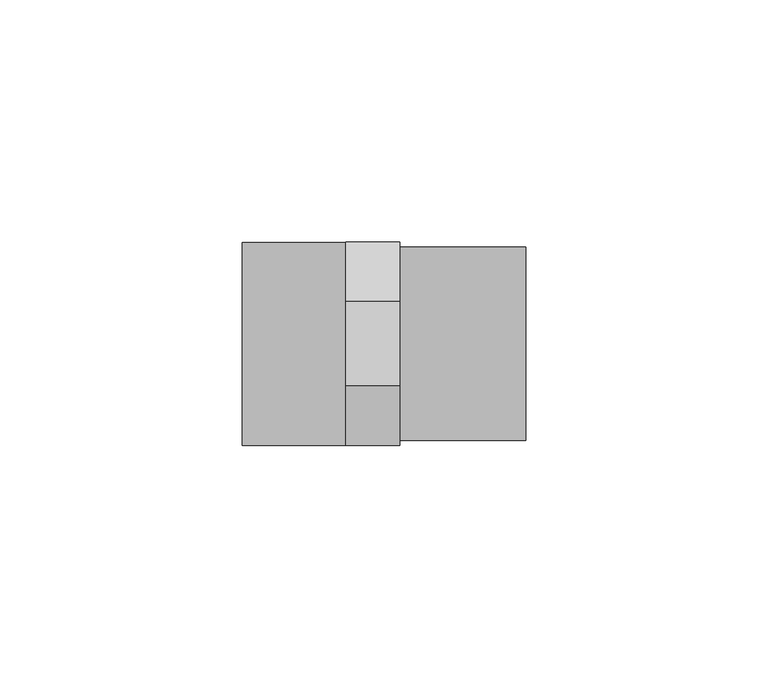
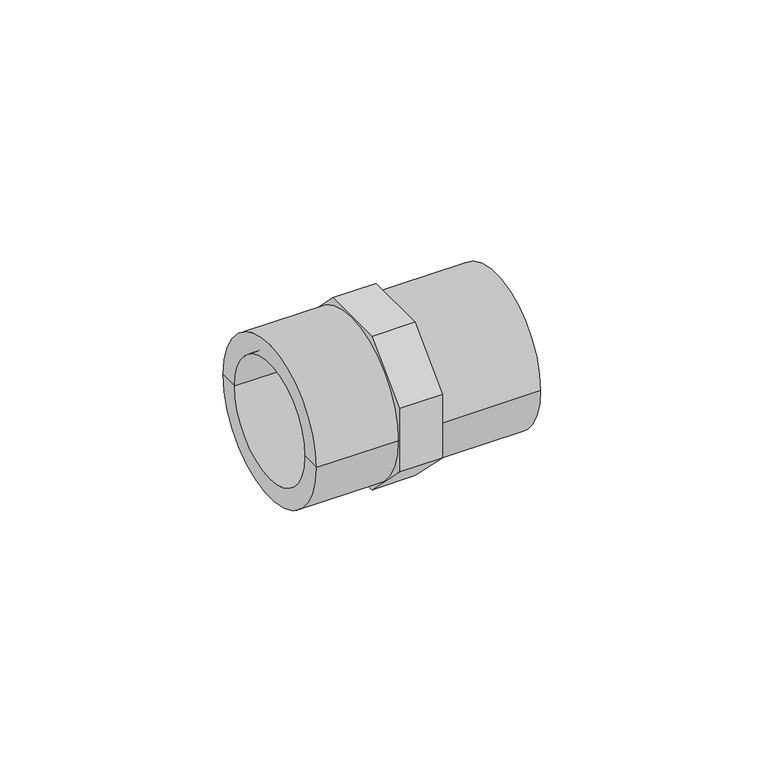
"""IFC4 building model written with IfcOpenShell, lengths in millimetres: pipe fitting geometry, Durapipe_PipeFitting_PVC_MaleThreadedAdaptors : 40 x 32 x G1-1⁄4."""

from ifc_helpers import new_model, si_unit, point, frame, origin, origin_2d, place, context, project, spatial, polyline, circle_curve, trimmed, segment, composite_curve, outline, extrude, source, transform, mapped, element, save
from ifc_brep_helpers import plane_surface, cylinder_surface, revolved_surface, advanced_brep


def pipe_fitting_e8316734(model_context):
    return source(origin(), model_context, "Body", "SolidModel", [
        extrude(outline(polyline([(21.0, 8.6984848), (21.0, -8.6984848), (8.6984848, -21.0), (-8.6984848, -21.0), (-21.0, -8.6984848), (-21.0, 8.6984848), (-8.6984848, 21.0), (8.6984848, 21.0), (21.0, 8.6984848)]), holes=[composite_curve([segment(trimmed(circle_curve(origin_2d(), 15.8), [point((15.8, 0.0))], [point((-15.8, 0.0))], True, "CARTESIAN"), True, "CONTINUOUS"), segment(trimmed(circle_curve(origin_2d(), 15.8), [point((-15.8, 0.0))], [point((15.8, 0.0))], True, "CARTESIAN"), True, "CONTINUOUS")], self_intersect=False)]), frame((-11.1, 0.0, 0.0), z_axis=(1.0, 0.0, 0.0), x_axis=(0.0, 1.0, 0.0)), (0.0, 0.0, 1.0), 11.1),
        advanced_brep(
        [(0.0, -20.0, 0.0), (0.0, 20.0, 0.0), (26.0, 20.0, 0.0), (26.0, -20.0, 0.0), (26.0, 16.0, 0.0), (26.0, -16.0, 0.0), (0.0, -16.0, 0.0), (0.0, 16.0, 0.0)],
        [
            (0, 1, circle_curve(frame((0.0, 0.0, 0.0), z_axis=(1.0, 0.0, 0.0), x_axis=(0.0, 1.0, 0.0)), 20.0)),
            (1, 2),
            (2, 3, circle_curve(frame((26.0, 0.0, 0.0), z_axis=(-1.0, 0.0, 0.0), x_axis=(0.0, 1.0, 0.0)), 20.0)),
            (3, 0),
            (1, 0, circle_curve(frame((0.0, 0.0, 0.0), z_axis=(1.0, 0.0, 0.0), x_axis=(0.0, 1.0, 0.0)), 20.0)),
            (3, 2, circle_curve(frame((26.0, 0.0, 0.0), z_axis=(-1.0, 0.0, 0.0), x_axis=(0.0, 1.0, 0.0)), 20.0)),
            (2, 4),
            (4, 5, circle_curve(frame((26.0, 0.0, 0.0), z_axis=(-1.0, 0.0, 0.0), x_axis=(0.0, 1.0, 0.0)), 16.0)),
            (5, 3),
            (5, 4, circle_curve(frame((26.0, 0.0, 0.0), z_axis=(-1.0, 0.0, 0.0), x_axis=(0.0, 1.0, 0.0)), 16.0)),
            (0, 6),
            (6, 7, circle_curve(frame((0.0, 0.0, 0.0), z_axis=(1.0, 0.0, 0.0), x_axis=(0.0, 1.0, 0.0)), 16.0)),
            (7, 1),
            (7, 6, circle_curve(frame((0.0, 0.0, 0.0), z_axis=(1.0, 0.0, 0.0), x_axis=(0.0, 1.0, 0.0)), 16.0)),
            (4, 7),
            (6, 5),
        ],
        [
            cylinder_surface(frame((427.4572068, 0.0, 0.0), z_axis=(-1.0, 0.0, 0.0), x_axis=(0.0, 1.0, 0.0)), 20.0),
            plane_surface(frame((26.0, 0.0, 0.0), z_axis=(1.0, 0.0, 0.0), x_axis=(0.0, 1.0, 0.0))),
            plane_surface(frame((0.0, 0.0, 0.0), z_axis=(-1.0, 0.0, 0.0), x_axis=(0.0, 1.0, 0.0))),
            revolved_surface(polyline([(0.0, 16.0, 0.0), (26.0, 16.0, 0.0)]), (39.5575137, 0.0, 0.0), (-1.0, 0.0, 0.0)),
        ],
        [
            (0, [[1, 2, 3, 4]]),
            (0, [[-2, 5, -4, 6]]),
            (1, [[-3, 7, 8, 9]]),
            (1, [[-6, -9, 10, -7]]),
            (2, [[-1, 11, 12, 13]]),
            (2, [[-5, -13, 14, -11]]),
            (3, [[15, -12, 16, -8]]),
            (3, [[-15, -10, -16, -14]]),
        ],
    ),
        advanced_brep(
        [(-11.1, -15.8, 0.0), (-11.1, 15.8, 0.0), (-32.5, 15.8, 0.0), (-32.5, -15.8, 0.0), (-11.1, -20.95, 0.0), (-11.1, 20.95, 0.0), (-32.5, -20.95, 0.0), (-32.5, 20.95, 0.0)],
        [
            (0, 1, circle_curve(frame((-11.1, 0.0, 0.0), z_axis=(1.0, 0.0, 0.0), x_axis=(0.0, 1.0, 0.0)), 15.8)),
            (1, 2),
            (2, 3, circle_curve(frame((-32.5, 0.0, 0.0), z_axis=(-1.0, 0.0, 0.0), x_axis=(0.0, 1.0, 0.0)), 15.8)),
            (3, 0),
            (1, 0, circle_curve(frame((-11.1, 0.0, 0.0), z_axis=(1.0, 0.0, 0.0), x_axis=(0.0, 1.0, 0.0)), 15.8)),
            (3, 2, circle_curve(frame((-32.5, 0.0, 0.0), z_axis=(-1.0, 0.0, 0.0), x_axis=(0.0, 1.0, 0.0)), 15.8)),
            (4, 5, circle_curve(frame((-11.1, 0.0, 0.0), z_axis=(1.0, 0.0, 0.0), x_axis=(0.0, 1.0, 0.0)), 20.95)),
            (5, 1),
            (0, 4),
            (5, 4, circle_curve(frame((-11.1, 0.0, 0.0), z_axis=(1.0, 0.0, 0.0), x_axis=(0.0, 1.0, 0.0)), 20.95)),
            (6, 7, circle_curve(frame((-32.5, 0.0, 0.0), z_axis=(1.0, 0.0, 0.0), x_axis=(0.0, 1.0, 0.0)), 20.95)),
            (7, 5),
            (4, 6),
            (7, 6, circle_curve(frame((-32.5, 0.0, 0.0), z_axis=(1.0, 0.0, 0.0), x_axis=(0.0, 1.0, 0.0)), 20.95)),
            (2, 7),
            (6, 3),
        ],
        [
            revolved_surface(polyline([(-32.5, 15.8, 0.0), (-11.100000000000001, 15.8, 0.0)]), (-47.5, 0.0, 0.0), (-1.0, 0.0, 0.0)),
            plane_surface(frame((-11.1, 0.0, 0.0), z_axis=(1.0, 0.0, 0.0), x_axis=(0.0, 1.0, 0.0))),
            cylinder_surface(frame((-47.5, 0.0, 0.0), z_axis=(-1.0, 0.0, 0.0), x_axis=(0.0, 1.0, 0.0)), 20.95),
            plane_surface(frame((-32.5, 0.0, 0.0), z_axis=(-1.0, 0.0, 0.0), x_axis=(0.0, 1.0, 0.0))),
        ],
        [
            (0, [[1, 2, 3, 4]]),
            (0, [[5, -4, 6, -2]]),
            (1, [[7, 8, -1, 9]]),
            (1, [[10, -9, -5, -8]]),
            (2, [[11, 12, -7, 13]]),
            (2, [[14, -13, -10, -12]]),
            (3, [[-3, 15, -11, 16]]),
            (3, [[-6, -16, -14, -15]]),
        ],
    ),
    ])


if __name__ == "__main__":
    model = new_model("IFC4")
    model_context = context("Model", 3, world=origin())
    ifc_project = project(units=[si_unit("LENGTHUNIT", "METRE", prefix="MILLI")], contexts=[model_context])
    site = spatial("IfcSite", under=ifc_project)
    building = spatial("IfcBuilding", under=site)
    placement = place(None, origin())
    pipe_fitting_shape = pipe_fitting_e8316734(model_context)
    element("IfcPipeFitting", 1, ObjectType="Durapipe_PipeFitting_PVC_MaleThreadedAdaptors : 40 x 32 x G1-1⁄4", at=placement, inside=building, context=model_context, shape_type="MappedRepresentation", body=[
        mapped(pipe_fitting_shape, transform((0.0, 0.0, 0.0), x_axis=(1.0, 0.0, 0.0), y_axis=(0.0, 1.0, 0.0), z_axis=(0.0, 0.0, 1.0))),
    ])
    save(model, "model.ifc")
